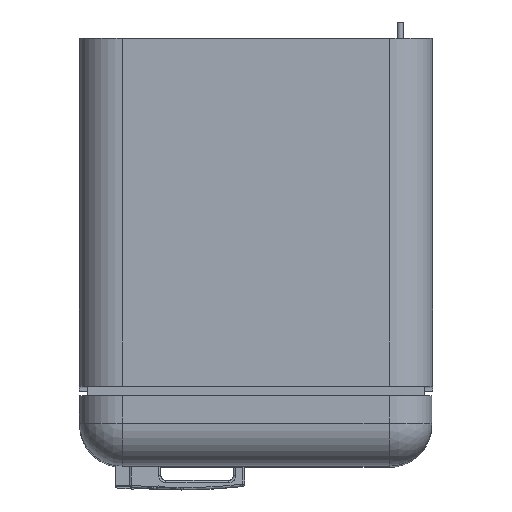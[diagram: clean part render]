
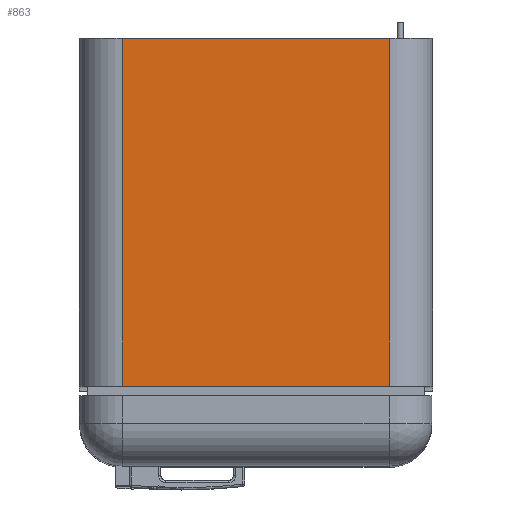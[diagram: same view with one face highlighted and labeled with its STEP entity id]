
A CAD part, top view. The second image highlights one B-rep face of the part: STEP entity #863.
In plain terms, the highlighted planar face has unit normal (0, 0, 1).
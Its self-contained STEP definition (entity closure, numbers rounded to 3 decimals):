
#863=ADVANCED_FACE('',(#1298),#1139,.F.);
#1139=PLANE('',#5185);
#1298=FACE_OUTER_BOUND('',#1530,.T.);
#1530=EDGE_LOOP('',(#2220,#2221,#2222,#2223));
#2220=ORIENTED_EDGE('',*,*,#3842,.T.);
#2221=ORIENTED_EDGE('',*,*,#3865,.T.);
#2222=ORIENTED_EDGE('',*,*,#3852,.F.);
#2223=ORIENTED_EDGE('',*,*,#3866,.T.);
#3316=VERTEX_POINT('',#7823);
#3317=VERTEX_POINT('',#7825);
#3326=VERTEX_POINT('',#7845);
#3327=VERTEX_POINT('',#7846);
#3842=EDGE_CURVE('',#3317,#3316,#4425,.T.);
#3852=EDGE_CURVE('',#3326,#3327,#4434,.T.);
#3865=EDGE_CURVE('',#3316,#3327,#4441,.T.);
#3866=EDGE_CURVE('',#3326,#3317,#4442,.T.);
#4425=LINE('',#7824,#4776);
#4434=LINE('',#7844,#4785);
#4441=LINE('',#7871,#4792);
#4442=LINE('',#7872,#4793);
#4776=VECTOR('',#5973,1.);
#4785=VECTOR('',#5986,1.);
#4792=VECTOR('',#6009,1.);
#4793=VECTOR('',#6010,1.);
#5185=AXIS2_PLACEMENT_3D('',#7873,#6011,#6012);
#5973=DIRECTION('',(1.,0.,0.));
#5986=DIRECTION('',(1.,0.,0.));
#6009=DIRECTION('',(0.,1.,0.));
#6010=DIRECTION('',(0.,-1.,0.));
#6011=DIRECTION('',(0.,0.,-1.));
#6012=DIRECTION('',(1.,0.,0.));
#7823=CARTESIAN_POINT('',(587.95,754.597,879.174));
#7824=CARTESIAN_POINT('',(59.95,754.597,879.174));
#7825=CARTESIAN_POINT('',(132.95,754.597,879.174));
#7844=CARTESIAN_POINT('',(59.95,1346.597,879.174));
#7845=CARTESIAN_POINT('',(132.95,1346.597,879.174));
#7846=CARTESIAN_POINT('',(587.95,1346.597,879.174));
#7871=CARTESIAN_POINT('',(587.95,754.597,879.174));
#7872=CARTESIAN_POINT('',(132.95,754.597,879.174));
#7873=CARTESIAN_POINT('',(59.95,754.597,879.174));
